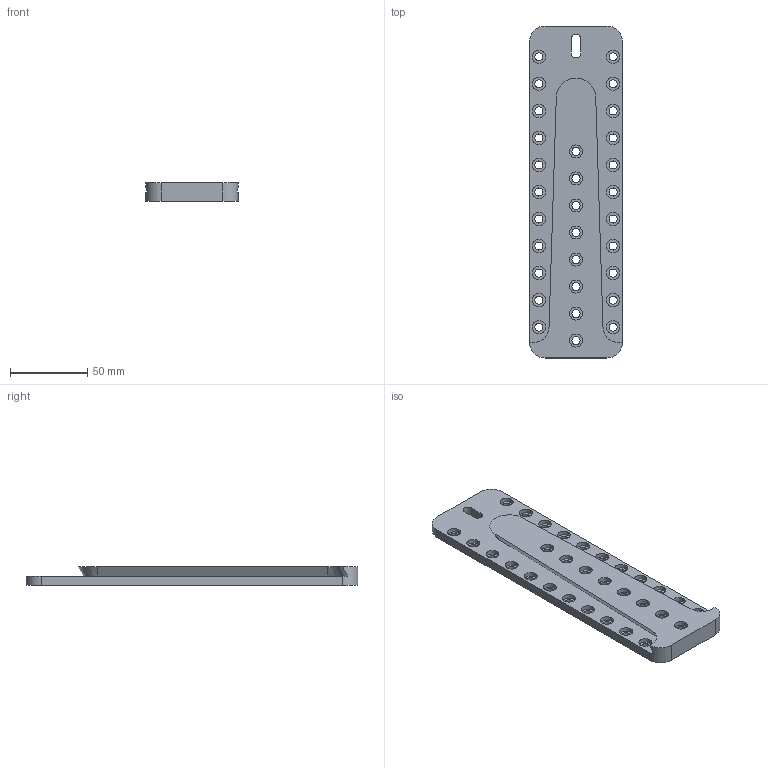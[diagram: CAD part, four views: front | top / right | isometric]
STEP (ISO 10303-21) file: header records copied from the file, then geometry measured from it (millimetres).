
FILE_DESCRIPTION (( 'STEP AP203' ), '1' );
FILE_NAME ('UV_80_HT_Holz.STEP', '2019-11-14T13:37:11', ( '' ), ( '' ), 'SwSTEP 2.0', 'SolidWorks 2013', '' );
FILE_SCHEMA (( 'CONFIG_CONTROL_DESIGN' ));
Length unit declared in the file: millimetre
Products named in the file (1): UV_80_HT_Holz
Bounding box: 60 x 215 x 12 mm (x, y, z)
Volume: 98972 mm3; surface area: 36459.8 mm2
Topology: 1 solids, 1 shells, 172 faces, 420 edges, 280 vertices
Faces by surface type: cylinder 126, plane 43, cone 3
Entity records: 5405 total; most frequent: DIRECTION 1024, CARTESIAN_POINT 879, ORIENTED_EDGE 840, AXIS2_PLACEMENT_3D 433, EDGE_CURVE 420, VERTEX_POINT 280, EDGE_LOOP 264, CIRCLE 260
